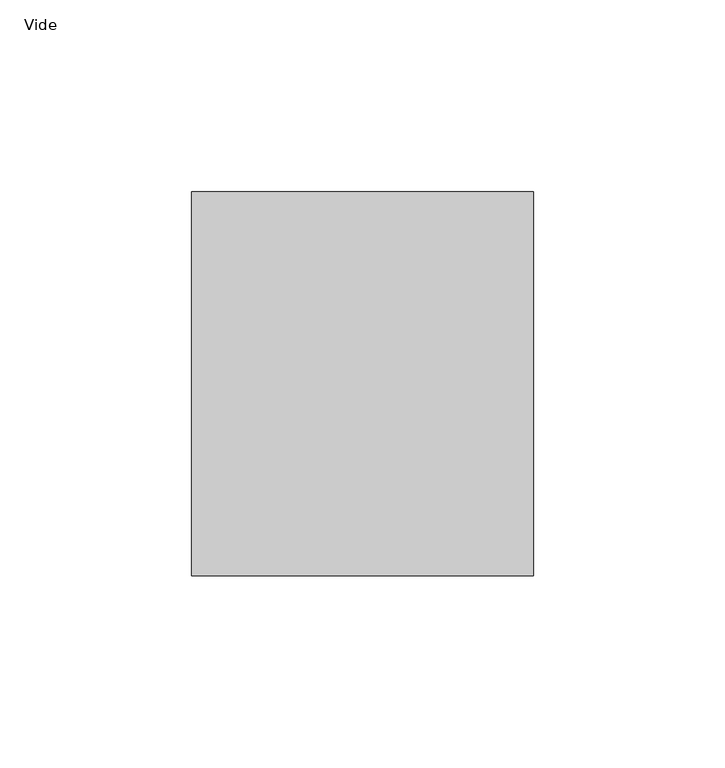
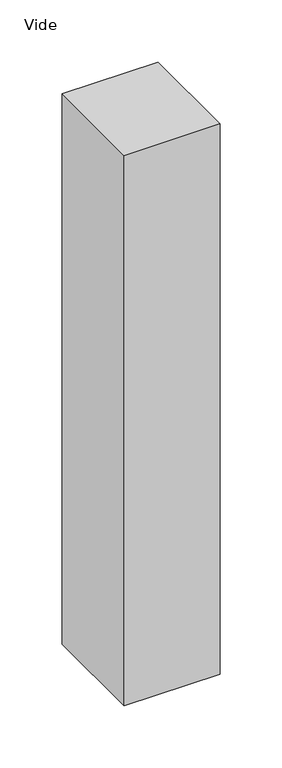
"""IFC4 building model written with IfcOpenShell, lengths in millimetres: plate geometry, Panneau système vide : Vide."""

from ifc_helpers import new_model, si_unit, origin, origin_with_axes, place, context, project, spatial, polyline, outline, extrude, source, transform, mapped, element, save


def vide_0bd5e38c(model_context):
    return source(origin(), model_context, "Body", "SweptSolid", [
        extrude(outline(polyline([(44.5, 50.0), (-44.5, 50.0), (-44.5, 150.0), (44.5, 150.0), (44.5, 50.0)])), origin_with_axes(), (0.0, 0.0, 1.0), 539.8914595),
    ])


if __name__ == "__main__":
    model = new_model("IFC4")
    model_context = context("Model", 3, world=origin())
    ifc_project = project(units=[si_unit("LENGTHUNIT", "METRE", prefix="MILLI")], contexts=[model_context])
    site = spatial("IfcSite", under=ifc_project)
    building = spatial("IfcBuilding", under=site)
    placement = place(None, origin())
    vide_shape = vide_0bd5e38c(model_context)
    element("IfcPlate", 1, ObjectType="Panneau système vide : Vide", at=placement, inside=building, context=model_context, shape_type="MappedRepresentation", body=[
        mapped(vide_shape, transform((0.0, 0.0, 0.0), x_axis=(1.0, 0.0, 0.0), y_axis=(0.0, 1.0, 0.0), z_axis=(0.0, 0.0, 1.0))),
    ])
    save(model, "model.ifc")
